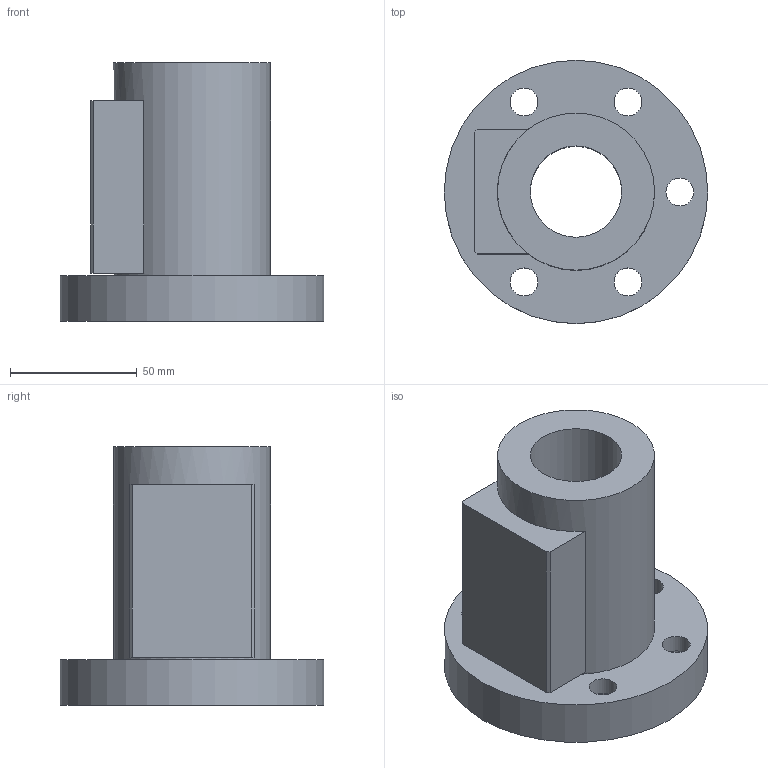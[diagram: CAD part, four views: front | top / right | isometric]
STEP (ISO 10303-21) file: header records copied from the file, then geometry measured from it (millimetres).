
FILE_DESCRIPTION(/* description */ (''),/* implementation_level */ '2;1');
FILE_NAME(/* name */ '36-10B2',/* time_stamp */ '2006-07-31T10:09:35+08:00',/* author */ (''),/* organization */ (''),/* preprocessor_version */ 'ST-DEVELOPER v9',/* originating_system */ 'UGS - NX 4.0',/* authorisation */ '');
FILE_SCHEMA (('CONFIG_CONTROL_DESIGN'));
Length unit declared in the file: millimetre
Products named in the file (1): 36-10B2
Bounding box: 104 x 104 x 102 mm (x, y, z)
Volume: 328146 mm3; surface area: 55518.1 mm2
Topology: 1 solids, 1 shells, 28 faces, 61 edges, 42 vertices
Faces by surface type: plane 15, cylinder 13
Full cylindrical faces by diameter (mm): 11 x5, 17.5 x5, 36 x1, 62 x1, 104 x1
Entity records: 794 total; most frequent: DIRECTION 130, CARTESIAN_POINT 111, ORIENTED_EDGE 88, EDGE_LOOP 60, AXIS2_PLACEMENT_3D 57, FACE_BOUND 45, EDGE_CURVE 44, VERTEX_POINT 38
